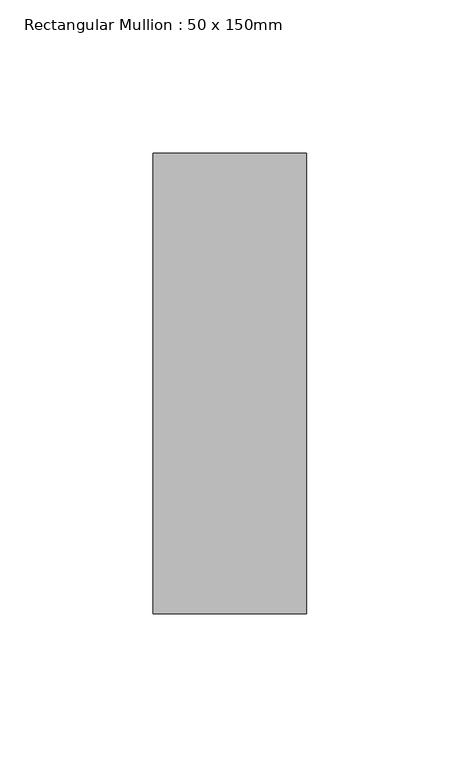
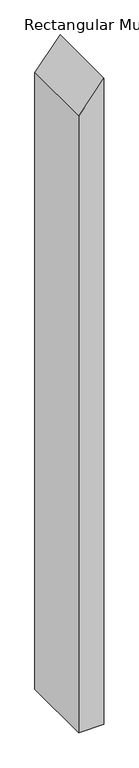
"""IFC4 building model written with IfcOpenShell, lengths in millimetres: member geometry, Rectangular Mullion : 50 x 150mm."""

import ifcopenshell
import ifcopenshell.guid

model = None  # the IFC model being written
_history = None  # IfcOwnerHistory: only IFC2X3 demands one
_inside = {}  # id of a spatial element -> (the spatial element, [elements in it])
_under = {}  # id of a project, library or spatial element -> (it, [spatial elements below it])
_declared = {}  # id of a project -> (the project, [libraries it declares])
_typed = {}  # id of a type object -> (the type object, [elements of that type])
_made_of = {}  # id of a material, layer set ... -> (it, [elements and type objects made of it])


def new_model(schema):
    """Start an empty IFC model of exactly this schema.

    Asked for "IFC4X3", IfcOpenShell would pick the latest addendum, in which some entities
    have other attributes; the version numbers below select the first issue.
    IFC2X3 requires an IfcOwnerHistory on every rooted entity: one is made here for all.
    """
    global model, _history
    if schema == "IFC4X3":
        model = ifcopenshell.file(schema_version=(4, 3, 0, 0))
    else:
        model = ifcopenshell.file(schema=schema)
    _inside.clear()
    _under.clear()
    _declared.clear()
    _typed.clear()
    _made_of.clear()
    _history = None
    if model.schema == "IFC2X3":
        org = make("IfcOrganization", Name="unknown")
        user = make(
            "IfcPersonAndOrganization",
            ThePerson=make("IfcPerson", FamilyName="unknown"),
            TheOrganization=org,
        )
        app = make(
            "IfcApplication",
            ApplicationDeveloper=org,
            Version="unknown",
            ApplicationFullName="unknown",
            ApplicationIdentifier="unknown",
        )
        _history = make(
            "IfcOwnerHistory",
            OwningUser=user,
            OwningApplication=app,
            ChangeAction="ADDED",
            CreationDate=0,
        )
    return model


def make(cls, **values):
    """One entity of the class cls with the attributes given. An attribute that is None is left unset."""
    return model.create_entity(
        cls, **{name: value for name, value in values.items() if value is not None}
    )


def rooted(cls, **values):
    """An entity with a GlobalId (a new one), such as an element, a storey or a relation."""
    return make(cls, GlobalId=ifcopenshell.guid.new(), OwnerHistory=_history, **values)


def si_unit(unit_type, name, prefix=None):
    """IfcSIUnit, for example si_unit("LENGTHUNIT", "METRE", prefix="MILLI")."""
    return make("IfcSIUnit", UnitType=unit_type, Prefix=prefix, Name=name)


def assignment(units):
    """IfcUnitAssignment: the units of a project."""
    return None if units is None else make("IfcUnitAssignment", Units=units)


def point(xyz):
    """IfcCartesianPoint."""
    return None if xyz is None else make("IfcCartesianPoint", Coordinates=xyz)


def direction(xyz):
    """IfcDirection."""
    return None if xyz is None else make("IfcDirection", DirectionRatios=xyz)


def frame(location, z_axis=None, x_axis=None):
    """IfcAxis2Placement3D, a coordinate frame: its origin and axes. An axis left out is left unset."""
    return make(
        "IfcAxis2Placement3D",
        Location=point(location),
        Axis=direction(z_axis),
        RefDirection=direction(x_axis),
    )


def origin():
    """The frame at (0, 0, 0) with its axes left unset."""
    return frame((0.0, 0.0, 0.0))


def place(relative_to, where):
    """IfcLocalPlacement: puts the frame where relative to a parent placement (None: the world)."""
    return make(
        "IfcLocalPlacement", PlacementRelTo=relative_to, RelativePlacement=where
    )


def context(
    kind, dimensions, precision=None, world=None, true_north=None, identifier=None
):
    """IfcGeometricRepresentationContext, for example the 3D "Model" context."""
    return make(
        "IfcGeometricRepresentationContext",
        ContextIdentifier=identifier,
        ContextType=kind,
        CoordinateSpaceDimension=dimensions,
        Precision=precision,
        WorldCoordinateSystem=world,
        TrueNorth=true_north,
    )


def project(units=None, contexts=None):
    """IfcProject with its units and contexts."""
    return rooted(
        "IfcProject",
        Name="project",
        RepresentationContexts=contexts,
        UnitsInContext=assignment(units),
    )


def spatial(cls, under=None, at=None, **own):
    """A site, building, storey or space (cls), placed at a placement, below another one or the project."""
    s = rooted(cls, ObjectPlacement=at, **own)
    if under is not None:
        _under.setdefault(under.id(), (under, []))[1].append(s)
    return s


def polyline(points):
    """IfcPolyline through the points."""
    return make("IfcPolyline", Points=[point(p) for p in points])


def outline(outer, holes=None, kind="AREA"):
    """IfcArbitraryClosedProfileDef: a profile drawn as a closed curve; with holes, ...WithVoids."""
    if holes is None:
        return make("IfcArbitraryClosedProfileDef", ProfileType=kind, OuterCurve=outer)
    return make(
        "IfcArbitraryProfileDefWithVoids",
        ProfileType=kind,
        OuterCurve=outer,
        InnerCurves=holes,
    )


def extrude(swept, where, along, depth):
    """IfcExtrudedAreaSolid: the profile swept, set in the frame where, extruded along a direction by depth."""
    return make(
        "IfcExtrudedAreaSolid",
        SweptArea=swept,
        Position=where,
        ExtrudedDirection=direction(along),
        Depth=depth,
    )


def shape(context_of_items, identifier, shape_type, items):
    """IfcShapeRepresentation: the items that make up one representation, for example the "Body"."""
    return make(
        "IfcShapeRepresentation",
        ContextOfItems=context_of_items,
        RepresentationIdentifier=identifier,
        RepresentationType=shape_type,
        Items=items,
    )


def source(mapping_origin, context_of_items, identifier, shape_type, items):
    """IfcRepresentationMap: a shape defined once, which mapped items show again and again."""
    return make(
        "IfcRepresentationMap",
        MappingOrigin=mapping_origin,
        MappedRepresentation=shape(context_of_items, identifier, shape_type, items),
    )


def transform(
    local_origin,
    x_axis=None,
    y_axis=None,
    z_axis=None,
    scale=None,
    scale2=None,
    scale3=None,
    uniform=True,
):
    """IfcCartesianTransformationOperator3D, or its non-uniform kind. x_axis, y_axis, z_axis: its Axis1, 2, 3."""
    if uniform:
        return make(
            "IfcCartesianTransformationOperator3D",
            Axis1=direction(x_axis),
            Axis2=direction(y_axis),
            LocalOrigin=point(local_origin),
            Scale=scale,
            Axis3=direction(z_axis),
        )
    return make(
        "IfcCartesianTransformationOperator3DnonUniform",
        Axis1=direction(x_axis),
        Axis2=direction(y_axis),
        LocalOrigin=point(local_origin),
        Scale=scale,
        Axis3=direction(z_axis),
        Scale2=scale2,
        Scale3=scale3,
    )


def mapped(mapping_source, mapping_target):
    """IfcMappedItem: shows the shape of a source again, moved by a transform."""
    return make(
        "IfcMappedItem", MappingSource=mapping_source, MappingTarget=mapping_target
    )


def made_of(thing, what):
    """Note that an element or type object is made of a material, layer set ...; save() writes the relation."""
    if what is not None:
        _made_of.setdefault(what.id(), (what, []))[1].append(thing)
    return thing


def element(
    cls,
    number,
    at=None,
    inside=None,
    cuts=None,
    type_object=None,
    material=None,
    context=None,
    identifier="Body",
    shape_type=None,
    held_by="IfcProductDefinitionShape",
    body=None,
    shapes=None,
    **own,
):
    """One element of the class cls, such as IfcWall. Its Tag is "e" and its number.

    at: its placement. inside: the storey or other place that contains it. cuts: it is an
    opening in that element (IfcRelVoidsElement). A single representation is given by context,
    identifier, shape_type and body (its items); several are given by shapes. held_by: the class
    of the entity that holds the representations. save() writes the other relations.
    """
    e = rooted(cls, Tag="e%d" % number, ObjectPlacement=at, **own)
    if body is not None:
        shapes = [shape(context, identifier, shape_type, body)]
    if shapes is not None:
        e.Representation = make(held_by, Representations=shapes)
    if inside is not None:
        _inside.setdefault(inside.id(), (inside, []))[1].append(e)
    if cuts is not None:
        rooted(
            "IfcRelVoidsElement", RelatingBuildingElement=cuts, RelatedOpeningElement=e
        )
    if type_object is not None:
        _typed.setdefault(type_object.id(), (type_object, []))[1].append(e)
    return made_of(e, material)


def aggregate(whole, parts):
    """IfcRelAggregates: a whole, such as a stair, and the parts it consists of."""
    return rooted("IfcRelAggregates", RelatingObject=whole, RelatedObjects=parts)


def save(model, path):
    """Write the relations noted so far, then the file.

    IfcRelAggregates (storeys below a building ...), IfcRelContainedInSpatialStructure (elements
    in a storey), IfcRelDefinesByType, IfcRelAssociatesMaterial and IfcRelDeclares: one each for
    every whole, place, type object, material and project.
    """
    for whole, parts in _under.values():
        aggregate(whole, parts)
    for where, things in _inside.values():
        rooted(
            "IfcRelContainedInSpatialStructure",
            RelatedElements=things,
            RelatingStructure=where,
        )
    for kind, things in _typed.values():
        rooted("IfcRelDefinesByType", RelatedObjects=things, RelatingType=kind)
    for what, things in _made_of.values():
        rooted("IfcRelAssociatesMaterial", RelatedObjects=things, RelatingMaterial=what)
    for by, libraries in _declared.values():
        rooted("IfcRelDeclares", RelatingContext=by, RelatedDefinitions=libraries)
    model.write(path)


def rectangular_mullion_50_x_150mm_f7b9a3ec(model_context):
    return source(origin(), model_context, "Body", "SweptSolid", [
        extrude(outline(polyline([(0.0, 0.0), (-61.8224636, -50.0), (-1353.3202354, -50.0), (-1353.3202354, 0.0), (0.0, 0.0)])), frame((0.0, -75.0, 0.0), z_axis=(0.0, 1.0, 0.0), x_axis=(0.0, 0.0, 1.0)), (0.0, 0.0, 1.0), 150.0),
    ])


if __name__ == "__main__":
    model = new_model("IFC4")
    model_context = context("Model", 3, world=origin())
    ifc_project = project(units=[si_unit("LENGTHUNIT", "METRE", prefix="MILLI")], contexts=[model_context])
    site = spatial("IfcSite", under=ifc_project)
    building = spatial("IfcBuilding", under=site)
    placement = place(None, origin())
    rectangular_mullion_50_x_150mm_shape = rectangular_mullion_50_x_150mm_f7b9a3ec(model_context)
    element("IfcMember", 1, ObjectType="Rectangular Mullion : 50 x 150mm", at=placement, inside=building, context=model_context, shape_type="MappedRepresentation", body=[
        mapped(rectangular_mullion_50_x_150mm_shape, transform((0.0, 0.0, 0.0), x_axis=(1.0, 0.0, 0.0), y_axis=(0.0, 1.0, 0.0), z_axis=(0.0, 0.0, 1.0))),
    ])
    save(model, "model.ifc")
